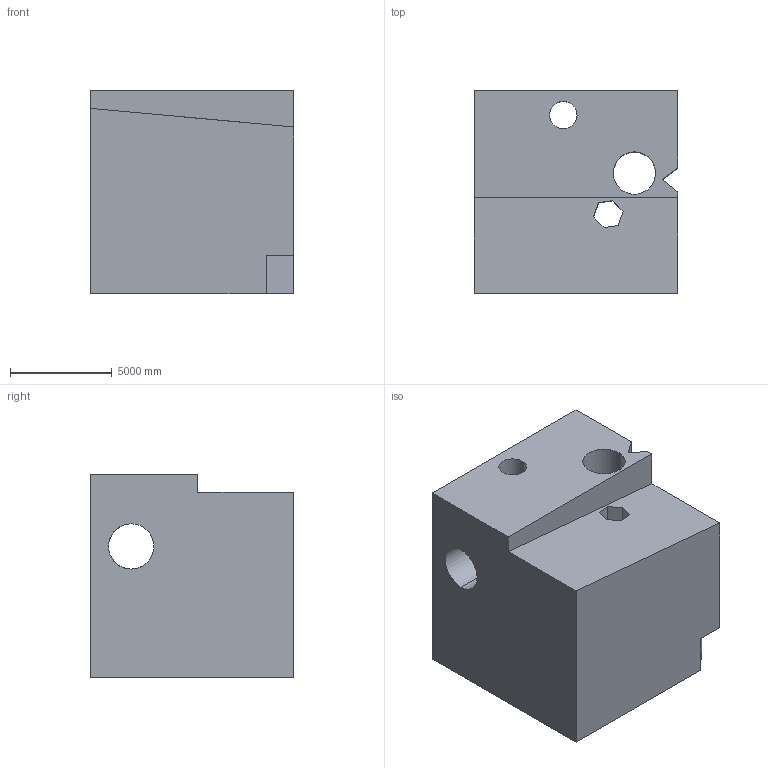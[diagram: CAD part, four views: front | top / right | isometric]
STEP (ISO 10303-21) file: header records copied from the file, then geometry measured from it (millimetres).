
FILE_DESCRIPTION (( 'STEP AP203' ), '1' );
FILE_NAME ('88.STEP', '2022-08-30T14:30:33', ( 'user' ), ( '' ), 'SwSTEP 2.0', 'SolidWorks 2021', '' );
FILE_SCHEMA (( 'CONFIG_CONTROL_DESIGN' ));
Length unit declared in the file: centimetre
Products named in the file (1): 88
Bounding box: 10000 x 10000 x 10000 mm (x, y, z)
Volume: 823683229187.1 mm3; surface area: 811746325.7 mm2
Topology: 1 solids, 1 shells, 37 faces, 107 edges, 72 vertices
Faces by surface type: plane 30, cylinder 7
Entity records: 1942 total; most frequent: CARTESIAN_POINT 866, ORIENTED_EDGE 214, DIRECTION 186, EDGE_CURVE 107, LINE 86, VECTOR 86, VERTEX_POINT 72, EDGE_LOOP 51
